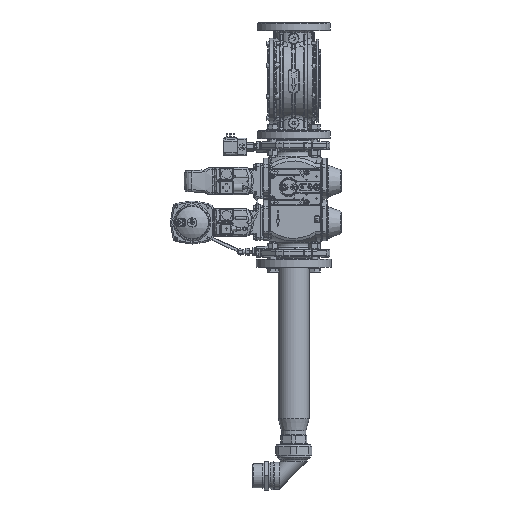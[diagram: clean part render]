
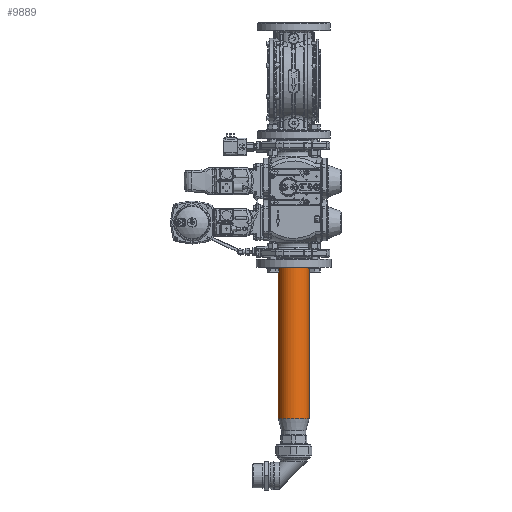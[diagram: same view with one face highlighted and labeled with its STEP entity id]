
A CAD part, left-side view. The second image highlights one B-rep face of the part: STEP entity #9889.
In plain terms, the highlighted cylindrical face has radius 38.05 mm (diameter 76.1 mm), a full revolution.
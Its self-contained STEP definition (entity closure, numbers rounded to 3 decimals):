
#4799 = CARTESIAN_POINT ( 'NONE',  ( 527.073, 2.005, -131.35 ) ) ;
#7117 = DIRECTION ( 'NONE',  ( 0., 0., 1. ) ) ;
#9889 = ADVANCED_FACE ( 'NONE', ( #285648, #165366, #121781 ), #209121, .T. ) ;
#17654 = CARTESIAN_POINT ( 'NONE',  ( 527.073, 2.003, -124.407 ) ) ;
#20320 = CARTESIAN_POINT ( 'NONE',  ( 527.006, -3.014, -130.522 ) ) ;
#28445 = CARTESIAN_POINT ( 'NONE',  ( 527.123, -0.529, -123.906 ) ) ;
#38212 = CARTESIAN_POINT ( 'NONE',  ( 527.125, 0., -123.879 ) ) ;
#40120 = ORIENTED_EDGE ( 'NONE', *, *, #168722, .T. ) ;
#40582 = CARTESIAN_POINT ( 'NONE',  ( 527.112, 1.036, -124.007 ) ) ;
#43237 = CARTESIAN_POINT ( 'NONE',  ( 527.125, 0.264, -123.879 ) ) ;
#45932 = CARTESIAN_POINT ( 'NONE',  ( 526.928, 3.871, -126.838 ) ) ;
#53108 = DIRECTION ( 'NONE',  ( 0., -1., 0. ) ) ;
#61545 = CARTESIAN_POINT ( 'NONE',  ( 527.104, -1.291, -124.084 ) ) ;
#69565 = CARTESIAN_POINT ( 'NONE',  ( 527.048, -2.44, -131.059 ) ) ;
#72258 = CARTESIAN_POINT ( 'NONE',  ( 527.034, -2.643, -124.866 ) ) ;
#80692 = DIRECTION ( 'NONE',  ( 0., -1., 0. ) ) ;
#81661 = CARTESIAN_POINT ( 'NONE',  ( 527.123, -0.527, -131.853 ) ) ;
#87038 = CARTESIAN_POINT ( 'NONE',  ( 526.915, 4., -128.145 ) ) ;
#91411 = CARTESIAN_POINT ( 'NONE',  ( 489.075, 0., 222.121 ) ) ;
#99827 = CARTESIAN_POINT ( 'NONE',  ( 527.123, 0.523, -131.854 ) ) ;
#110604 = CARTESIAN_POINT ( 'NONE',  ( 526.992, -3.182, -125.441 ) ) ;
#113279 = CARTESIAN_POINT ( 'NONE',  ( 527.104, -1.292, -131.674 ) ) ;
#121781 = FACE_OUTER_BOUND ( 'NONE', #463974, .T. ) ;
#125397 = CARTESIAN_POINT ( 'NONE',  ( 526.955, 3.595, -126.105 ) ) ;
#129821 = DIRECTION ( 'NONE',  ( 0., 0., -1. ) ) ;
#138458 = CARTESIAN_POINT ( 'NONE',  ( 489.075, -38.05, 222.121 ) ) ;
#140840 = CARTESIAN_POINT ( 'NONE',  ( 527.104, 1.292, -131.674 ) ) ;
#143483 = CARTESIAN_POINT ( 'NONE',  ( 526.917, 3.974, -128.405 ) ) ;
#146243 = CARTESIAN_POINT ( 'NONE',  ( 527.073, -2.009, -124.411 ) ) ;
#151537 = CARTESIAN_POINT ( 'NONE',  ( 526.915, -4., -128.142 ) ) ;
#159978 = CARTESIAN_POINT ( 'NONE',  ( 489.075, 0., 222.121 ) ) ;
#165366 = FACE_OUTER_BOUND ( 'NONE', #521064, .T. ) ;
#166339 = CARTESIAN_POINT ( 'NONE',  ( 527.006, 3.012, -130.524 ) ) ;
#168722 = EDGE_CURVE ( 'NONE', #538673, #538673, #298390, .T. ) ;
#169042 = CARTESIAN_POINT ( 'NONE',  ( 527.125, 0., -123.879 ) ) ;
#171769 = CARTESIAN_POINT ( 'NONE',  ( 527.085, 1.773, -131.475 ) ) ;
#184592 = CARTESIAN_POINT ( 'NONE',  ( 526.993, 3.181, -130.319 ) ) ;
#192640 = CARTESIAN_POINT ( 'NONE',  ( 527.112, -1.038, -131.751 ) ) ;
#192911 = EDGE_LOOP ( 'NONE', ( #311306 ) ) ;
#198031 = CARTESIAN_POINT ( 'NONE',  ( 527.073, -2.006, -131.35 ) ) ;
#207410 = CARTESIAN_POINT ( 'NONE',  ( 527.034, 2.644, -124.866 ) ) ;
#207595 = CARTESIAN_POINT ( 'NONE',  ( 489.075, -38.05, -162.836 ) ) ;
#209121 = CYLINDRICAL_SURFACE ( 'NONE', #436237, 38.05 ) ;
#210098 = CARTESIAN_POINT ( 'NONE',  ( 527.048, 2.442, -131.058 ) ) ;
#222831 = CARTESIAN_POINT ( 'NONE',  ( 527.104, 1.29, -124.084 ) ) ;
#225538 = CARTESIAN_POINT ( 'NONE',  ( 527.125, 0.261, -131.88 ) ) ;
#228247 = CARTESIAN_POINT ( 'NONE',  ( 526.936, -3.795, -129.17 ) ) ;
#236260 = CARTESIAN_POINT ( 'NONE',  ( 526.967, -3.472, -129.883 ) ) ;
#238870 = CARTESIAN_POINT ( 'NONE',  ( 527.112, -1.042, -124.009 ) ) ;
#248289 = CARTESIAN_POINT ( 'NONE',  ( 526.928, 3.872, -128.916 ) ) ;
#251027 = CARTESIAN_POINT ( 'NONE',  ( 527.123, 0.524, -123.905 ) ) ;
#253707 = CARTESIAN_POINT ( 'NONE',  ( 527.085, 1.774, -124.285 ) ) ;
#261355 = DIRECTION ( 'NONE',  ( 0., -1., 0. ) ) ;
#269132 = CARTESIAN_POINT ( 'NONE',  ( 526.967, -3.471, -125.874 ) ) ;
#271809 = CARTESIAN_POINT ( 'NONE',  ( 526.928, -3.872, -128.918 ) ) ;
#273059 = AXIS2_PLACEMENT_3D ( 'NONE', #91411, #129821, #53108 ) ;
#277233 = CARTESIAN_POINT ( 'NONE',  ( 527.048, -2.441, -124.7 ) ) ;
#279926 = CARTESIAN_POINT ( 'NONE',  ( 526.993, -3.18, -130.32 ) ) ;
#285648 = FACE_BOUND ( 'NONE', #192911, .T. ) ;
#294249 = CARTESIAN_POINT ( 'NONE',  ( 489.075, 0., -162.836 ) ) ;
#294678 = CARTESIAN_POINT ( 'NONE',  ( 527.048, 2.438, -124.697 ) ) ;
#298390 = CIRCLE ( 'NONE', #517452, 38.05 ) ;
#307428 = CARTESIAN_POINT ( 'NONE',  ( 526.917, 3.974, -127.355 ) ) ;
#310074 = CARTESIAN_POINT ( 'NONE',  ( 527.125, -0.267, -131.879 ) ) ;
#310186 = ORIENTED_EDGE ( 'NONE', *, *, #391814, .T. ) ;
#311306 = ORIENTED_EDGE ( 'NONE', *, *, #526833, .T. ) ;
#315513 = CARTESIAN_POINT ( 'NONE',  ( 526.917, -3.975, -128.401 ) ) ;
#318233 = CARTESIAN_POINT ( 'NONE',  ( 526.917, -3.974, -127.355 ) ) ;
#320928 = CARTESIAN_POINT ( 'NONE',  ( 526.955, -3.596, -126.108 ) ) ;
#348556 = CARTESIAN_POINT ( 'NONE',  ( 526.915, 4., -127.617 ) ) ;
#359400 = CARTESIAN_POINT ( 'NONE',  ( 527.034, -2.646, -130.891 ) ) ;
#374278 = CARTESIAN_POINT ( 'NONE',  ( 527.006, 3.012, -125.235 ) ) ;
#379590 = CARTESIAN_POINT ( 'NONE',  ( 526.967, 3.471, -129.884 ) ) ;
#381282 = B_SPLINE_CURVE_WITH_KNOTS ( 'NONE', 3,
 ( #169042, #43237, #251027, #40582, #222831, #253707, #17654, #294678, #207410, #374278, #500198, #515706, #125397, #541195, #45932, #307428, #348556, #87038, #143483, #248289, #502881, #420685, #379590, #184592, #166339, #459127, #210098, #4799, #171769, #140840, #505589, #99827, #225538, #310074, #81661, #192640, #113279, #436260, #198031, #69565, #359400, #20320, #279926, #236260, #526403, #228247, #271809, #315513, #151537, #488080, #318233, #485362, #403192, #320928, #269132, #110604, #447035, #72258, #277233, #146243, #444380, #61545, #238870, #28445, #482694, #521041 ),
 .UNSPECIFIED., .T., .F.,
 ( 4, 2, 2, 2, 2, 2, 2, 2, 2, 2, 2, 2, 2, 2, 2, 2, 2, 2, 2, 2, 2, 2, 2, 2, 2, 2, 2, 2, 2, 2, 2, 2, 4 ),
 ( 0., 0.001, 0.002, 0.002, 0.003, 0.004, 0.005, 0.005, 0.006, 0.007, 0.008, 0.009, 0.009, 0.01, 0.011, 0.012, 0.013, 0.013, 0.014, 0.015, 0.016, 0.016, 0.017, 0.018, 0.019, 0.02, 0.02, 0.021, 0.022, 0.023, 0.023, 0.024, 0.025 ),
 .UNSPECIFIED. ) ;
#391814 = EDGE_CURVE ( 'NONE', #513238, #513238, #526739, .T. ) ;
#403192 = CARTESIAN_POINT ( 'NONE',  ( 526.936, -3.796, -126.592 ) ) ;
#420685 = CARTESIAN_POINT ( 'NONE',  ( 526.955, 3.594, -129.655 ) ) ;
#436237 = AXIS2_PLACEMENT_3D ( 'NONE', #159978, #458152, #80692 ) ;
#436260 = CARTESIAN_POINT ( 'NONE',  ( 527.085, -1.776, -131.473 ) ) ;
#444380 = CARTESIAN_POINT ( 'NONE',  ( 527.085, -1.775, -124.285 ) ) ;
#447035 = CARTESIAN_POINT ( 'NONE',  ( 527.006, -3.016, -125.239 ) ) ;
#458152 = DIRECTION ( 'NONE',  ( 0., 0., 1. ) ) ;
#459127 = CARTESIAN_POINT ( 'NONE',  ( 527.034, 2.643, -130.893 ) ) ;
#463974 = EDGE_LOOP ( 'NONE', ( #310186 ) ) ;
#482694 = CARTESIAN_POINT ( 'NONE',  ( 527.125, -0.264, -123.879 ) ) ;
#485362 = CARTESIAN_POINT ( 'NONE',  ( 526.928, -3.872, -126.842 ) ) ;
#488080 = CARTESIAN_POINT ( 'NONE',  ( 526.915, -4., -127.62 ) ) ;
#500198 = CARTESIAN_POINT ( 'NONE',  ( 526.993, 3.178, -125.436 ) ) ;
#500571 = VERTEX_POINT ( 'NONE', #38212 ) ;
#502881 = CARTESIAN_POINT ( 'NONE',  ( 526.936, 3.795, -129.17 ) ) ;
#505589 = CARTESIAN_POINT ( 'NONE',  ( 527.112, 1.04, -131.751 ) ) ;
#513238 = VERTEX_POINT ( 'NONE', #138458 ) ;
#515706 = CARTESIAN_POINT ( 'NONE',  ( 526.967, 3.47, -125.873 ) ) ;
#517452 = AXIS2_PLACEMENT_3D ( 'NONE', #294249, #7117, #261355 ) ;
#521041 = CARTESIAN_POINT ( 'NONE',  ( 527.125, 0., -123.879 ) ) ;
#521064 = EDGE_LOOP ( 'NONE', ( #40120 ) ) ;
#526403 = CARTESIAN_POINT ( 'NONE',  ( 526.955, -3.596, -129.651 ) ) ;
#526739 = CIRCLE ( 'NONE', #273059, 38.05 ) ;
#526833 = EDGE_CURVE ( 'NONE', #500571, #500571, #381282, .T. ) ;
#538673 = VERTEX_POINT ( 'NONE', #207595 ) ;
#541195 = CARTESIAN_POINT ( 'NONE',  ( 526.936, 3.794, -126.586 ) ) ;
